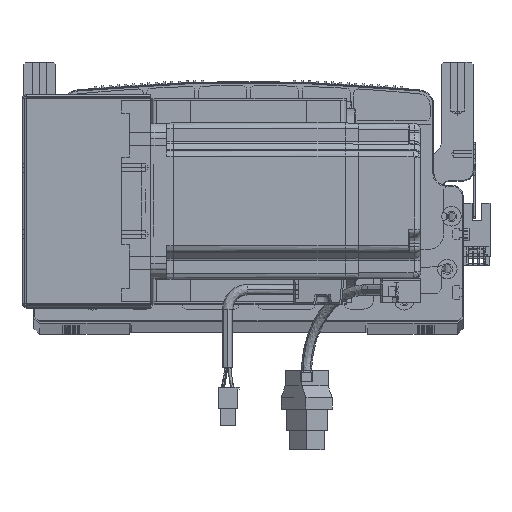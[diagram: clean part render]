
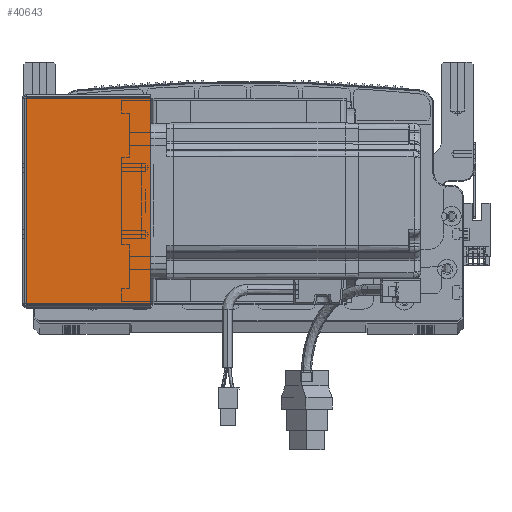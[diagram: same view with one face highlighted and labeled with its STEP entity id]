
A CAD part, top view. The second image highlights one B-rep face of the part: STEP entity #40643.
In plain terms, the highlighted planar face has unit normal (0, 0, 1) as drawn and (0, 0, -1) by its records, which use the part's own axes.
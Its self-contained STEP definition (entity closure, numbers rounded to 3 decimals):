
#2127 = CARTESIAN_POINT ( 'NONE',  ( 0.737, 105.293, -205.5 ) ) ;
#2264 = DIRECTION ( 'NONE',  ( 0., -1., 0. ) ) ;
#8322 = VERTEX_POINT ( 'NONE', #2127 ) ;
#11286 = DIRECTION ( 'NONE',  ( 1., 0., 0. ) ) ;
#15656 = LINE ( 'NONE', #38643, #95120 ) ;
#16243 = CARTESIAN_POINT ( 'NONE',  ( 64.5, 105.293, -205.5 ) ) ;
#16648 = VECTOR ( 'NONE', #92768, 1000. ) ;
#19131 = VERTEX_POINT ( 'NONE', #43330 ) ;
#21439 = LINE ( 'NONE', #30439, #16648 ) ;
#22039 = CARTESIAN_POINT ( 'NONE',  ( 64.5, 0.707, -205.5 ) ) ;
#27769 = EDGE_LOOP ( 'NONE', ( #94673, #94109, #75151, #93931 ) ) ;
#28902 = VERTEX_POINT ( 'NONE', #16243 ) ;
#30439 = CARTESIAN_POINT ( 'NONE',  ( 64.5, 0., -205.5 ) ) ;
#31196 = CARTESIAN_POINT ( 'NONE',  ( 0., 0., -205.5 ) ) ;
#32450 = EDGE_CURVE ( 'NONE', #8322, #19131, #15656, .T. ) ;
#33432 = CARTESIAN_POINT ( 'NONE',  ( 0., 0.707, -205.5 ) ) ;
#38405 = VECTOR ( 'NONE', #71132, 1000. ) ;
#38643 = CARTESIAN_POINT ( 'NONE',  ( 0.737, 0., -205.5 ) ) ;
#40643 = ADVANCED_FACE ( 'NONE', ( #79188 ), #77278, .F. ) ;
#43330 = CARTESIAN_POINT ( 'NONE',  ( 0.737, 0.707, -205.5 ) ) ;
#45346 = EDGE_CURVE ( 'NONE', #19131, #76796, #56662, .T. ) ;
#56662 = LINE ( 'NONE', #33432, #72233 ) ;
#62511 = LINE ( 'NONE', #84986, #38405 ) ;
#69004 = AXIS2_PLACEMENT_3D ( 'NONE', #31196, #69246, #85067 ) ;
#69246 = DIRECTION ( 'NONE',  ( 0., 0., 1. ) ) ;
#71132 = DIRECTION ( 'NONE',  ( 1., 0., 0. ) ) ;
#72233 = VECTOR ( 'NONE', #11286, 1000. ) ;
#75151 = ORIENTED_EDGE ( 'NONE', *, *, #99013, .T. ) ;
#76796 = VERTEX_POINT ( 'NONE', #22039 ) ;
#77025 = EDGE_CURVE ( 'NONE', #8322, #28902, #62511, .T. ) ;
#77278 = PLANE ( 'NONE',  #69004 ) ;
#79188 = FACE_OUTER_BOUND ( 'NONE', #27769, .T. ) ;
#84986 = CARTESIAN_POINT ( 'NONE',  ( 0., 105.293, -205.5 ) ) ;
#85067 = DIRECTION ( 'NONE',  ( 1., 0., 0. ) ) ;
#92768 = DIRECTION ( 'NONE',  ( 0., -1., 0. ) ) ;
#93931 = ORIENTED_EDGE ( 'NONE', *, *, #45346, .F. ) ;
#94109 = ORIENTED_EDGE ( 'NONE', *, *, #77025, .T. ) ;
#94673 = ORIENTED_EDGE ( 'NONE', *, *, #32450, .F. ) ;
#95120 = VECTOR ( 'NONE', #2264, 1000. ) ;
#99013 = EDGE_CURVE ( 'NONE', #28902, #76796, #21439, .T. ) ;
